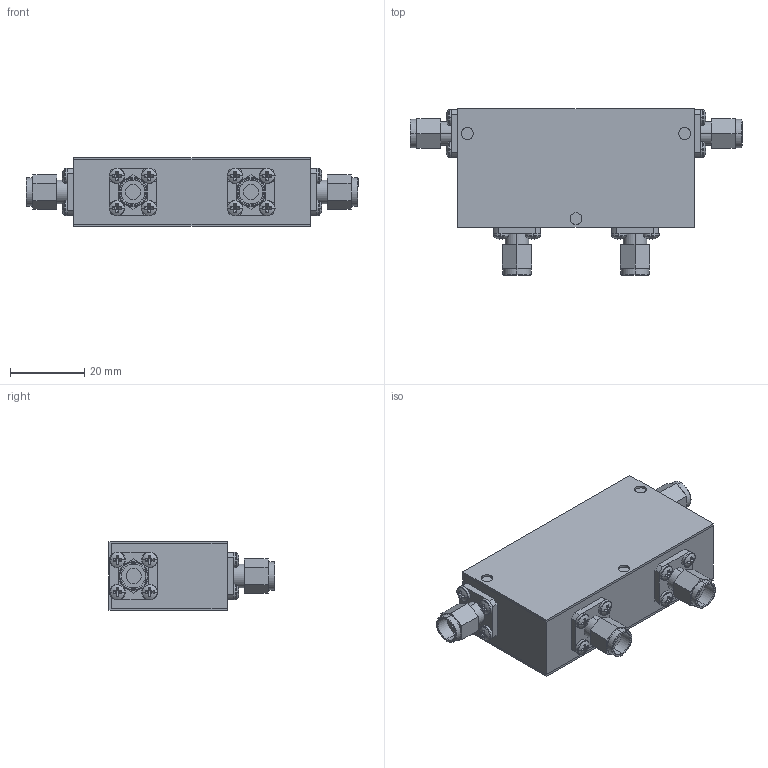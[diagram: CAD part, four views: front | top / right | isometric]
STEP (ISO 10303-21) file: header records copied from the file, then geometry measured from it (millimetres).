
FILE_DESCRIPTION (( 'STEP AP214' ), '1' );
FILE_NAME ('Package 13 Circ MMMM.step', '2021-12-01T20:57:27', ( '' ), ( '' ), 'SwSTEP 2.0', 'SolidWorks 2016', '' );
FILE_SCHEMA (( 'AUTOMOTIVE_DESIGN' ));
Length unit declared in the file: inch
Products named in the file (5): Delta SMA-Male; Package Size 13; Package 13 Circ MMMM; pan cross head_ai_CR-PHMS 0.086-56x0.125x0.125-N; Package 13
Assembly tree (22 placements, depth 2):
  Package 13 Circ MMMM
    Package 13
    pan cross head_ai_CR-PHMS 0.086-56x0.125x0.125-N  x16
    Delta SMA-Male  x4
    Package Size 13
Bounding box: 89.26 x 44.63 x 18.54 mm (x, y, z)
Volume: 39874.2 mm3; surface area: 22266 mm2
Topology: 22 solids, 22 shells, 584 faces, 1328 edges, 816 vertices
Faces by surface type: plane 340, cylinder 156, torus 56, sphere 32
Entity records: 3288 total; most frequent: DIRECTION 594, CARTESIAN_POINT 509, ORIENTED_EDGE 472, EDGE_CURVE 236, AXIS2_PLACEMENT_3D 235, VERTEX_POINT 150, VECTOR 124, EDGE_LOOP 124
